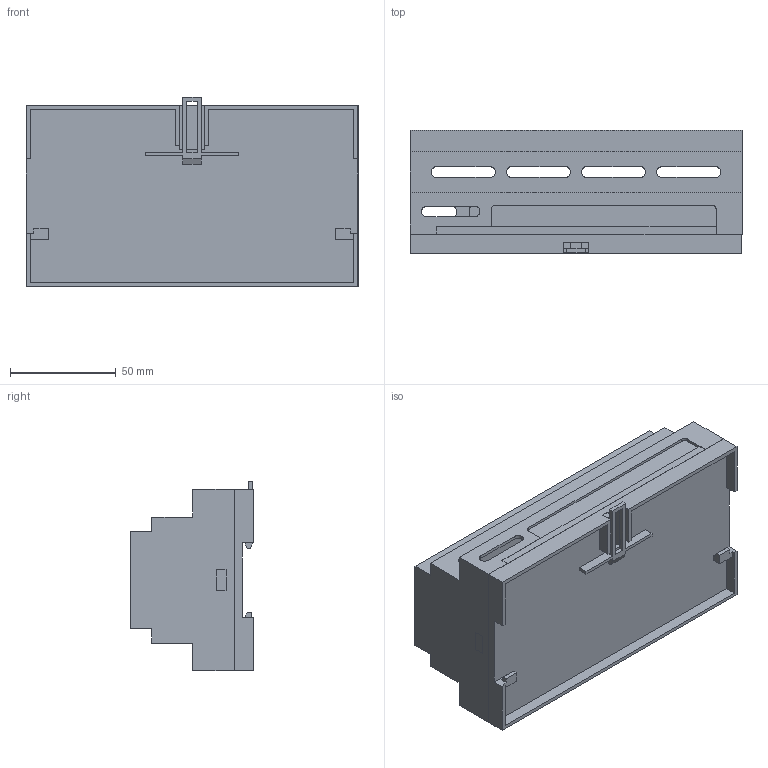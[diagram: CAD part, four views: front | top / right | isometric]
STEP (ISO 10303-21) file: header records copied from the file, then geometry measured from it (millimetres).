
FILE_DESCRIPTION((''),'2;1');
FILE_NAME('J:\WIP\Magpowr WEB\3D (Models)\Tension Controls\Tension Control\Spyder\Spyder Plus.stp','2013-09-30T13:47:50',('lzuniga'),(''),'Autodesk Inventor 2013','Autodesk Inventor 2013','');
FILE_SCHEMA(('AUTOMOTIVE_DESIGN { 1 0 10303 214 1 1 1 1 }'));
Length unit declared in the file: inch
Products named in the file (1): Spyder Plus
Bounding box: 157.16 x 58.42 x 89.78 mm (x, y, z)
Volume: 75130.9 mm3; surface area: 101597 mm2
Topology: 1 solids, 1 shells, 737 faces, 2007 edges, 1333 vertices
Faces by surface type: plane 531, bspline 158, cylinder 48
Entity records: 24443 total; most frequent: CARTESIAN_POINT 6555, ORIENTED_EDGE 4014, DIRECTION 2948, EDGE_CURVE 2007, VECTOR 1596, LINE 1596, VERTEX_POINT 1333, EDGE_LOOP 824
